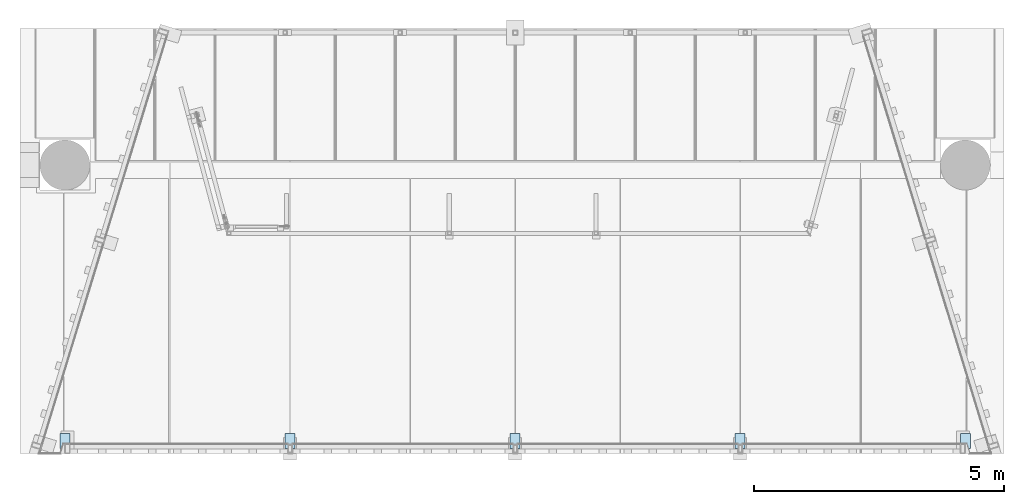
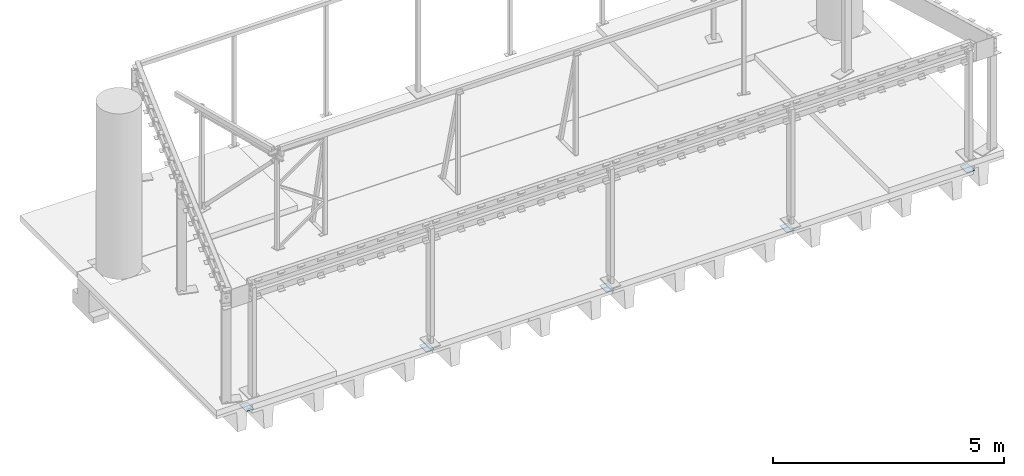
# One storey, part 19 of 19: 5 plates.
"""IFC2X3 building model written with IfcOpenShell, lengths in millimetres."""

from ifc_helpers import new_model, entity, si_unit, converted_unit, derived_unit, direction, frame, origin_with_axes, place, context, subcontext, project, spatial, faceted_brep, material, type_object, element, save


model = new_model("IFC2X3")

# Units and contexts
model_context = context("Model", 3, precision=0.01, world=frame((0.0, 4.29681676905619e-09, 0.0)), true_north=direction((4.01073788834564e-13, 1.0)))
plan_context = context("Plan", 3, precision=0.01, world=frame((0.0, 4.29681676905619e-09, 0.0)), true_north=direction((4.01073788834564e-13, 1.0)))
body_context = subcontext(model_context, "Body", "Model", "MODEL_VIEW")
ifc_project = project(units=[converted_unit("PLANEANGLEUNIT", "DEGREE", entity("IfcPositiveLengthMeasure", 0.0174532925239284), si_unit("PLANEANGLEUNIT", "RADIAN"), dimensions=[0, 0, 0, 0, 0, 0, 0]), si_unit("AREAUNIT", "SQUARE_METRE"), si_unit("LENGTHUNIT", "METRE", prefix="MILLI"), si_unit("MASSUNIT", "GRAM", prefix="KILO"), si_unit("POWERUNIT", "WATT"), si_unit("PRESSUREUNIT", "PASCAL", prefix="KILO"), si_unit("FORCEUNIT", "NEWTON", prefix="KILO"), si_unit("ELECTRICVOLTAGEUNIT", "VOLT"), si_unit("ELECTRICCURRENTUNIT", "AMPERE"), si_unit("THERMODYNAMICTEMPERATUREUNIT", "DEGREE_CELSIUS"), si_unit("TIMEUNIT", "SECOND"), si_unit("VOLUMEUNIT", "CUBIC_METRE"), derived_unit("LINEARVELOCITYUNIT", [(si_unit("LENGTHUNIT", "METRE"), 1), (si_unit("TIMEUNIT", "SECOND"), -1)]), derived_unit("VOLUMETRICFLOWRATEUNIT", [(si_unit("VOLUMEUNIT", "CUBIC_METRE"), 1), (si_unit("TIMEUNIT", "SECOND"), -1)]), derived_unit("THERMALTRANSMITTANCEUNIT", [(si_unit("POWERUNIT", "WATT"), 1), (si_unit("THERMODYNAMICTEMPERATUREUNIT", "KELVIN"), -1), (si_unit("AREAUNIT", "SQUARE_METRE"), -1)]), derived_unit("SOUNDPRESSUREUNIT", [(si_unit("PRESSUREUNIT", "PASCAL"), 1)])], contexts=[model_context, plan_context])

# Site, building, storey
site_placement = place(None, frame((0.0, -4.29681676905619e-09, 0.0), z_axis=(0.0, 0.0, 1.0), x_axis=(1.0, 0.0, 0.0)))
site = spatial("IfcSite", under=ifc_project, at=site_placement, Name="Gardermoen", CompositionType="ELEMENT")
building_placement = place(site_placement, frame((0.0, 4.29681676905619e-09, 0.0), z_axis=(0.0, 0.0, 1.0), x_axis=(1.0, 0.0, 0.0)))
building = spatial("IfcBuilding", under=site, at=building_placement, Name="TI", CompositionType="ELEMENT")
storey_placement = place(building_placement, origin_with_axes())
storey = spatial("IfcBuildingStorey", under=building, at=storey_placement, Name="F", CompositionType="ELEMENT", Elevation=0.0)

# Plates
ifc_material = material(Name="STEEL/S355")
plate_type = type_object("IfcPlateType", Name="PL12*200", PredefinedType="NOTDEFINED")
for number, where, z_axis, x_axis in (
    (1, (600899.99893067, 570130.00625733, 210459.0), (1.0, 0.0, 0.0), (0.0, -1.0, 0.0)),
    (2, (596399.99893067, 570130.00625733, 210459.0), (1.0, 0.0, 0.0), (0.0, -1.0, 0.0)),
    (3, (591899.99893067, 570130.00625733, 210459.0), (1.0, 0.0, 0.0), (0.0, -1.0, 0.0)),
    (4, (587399.99893067, 570130.006257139, 210459.0), (1.0, 0.0, 0.0), (0.0, -1.0, 0.0)),
    (5, (582899.99893067, 570130.006257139, 210459.0), (1.0, 0.0, 0.0), (0.0, -1.0, 0.0)),
):
    element("IfcPlate", number, at=place(storey_placement, frame(where, z_axis=z_axis, x_axis=x_axis)), inside=storey, type_object=plate_type, material=ifc_material, Name="STÅLBJELKE", ObjectType="PL12*200", context=body_context, shape_type="Brep", body=[
        faceted_brep([(0.0, -6.0, 0.0), (0.00684630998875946, -6.0, 199.999999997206), (0.00684630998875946, 6.0, 199.999999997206), (0.0, 6.0, 0.0), (299.552764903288, -6.0, 200.004394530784), (299.552764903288, 6.0, 200.004394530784), (300.000000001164, -6.0, 2.27009877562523e-09), (300.000000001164, 6.0, 2.27009877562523e-09)], [[[0, 1, 2, 3]], [[1, 4, 5, 2]], [[4, 6, 7, 5]], [[6, 0, 3, 7]], [[5, 7, 3, 2]], [[6, 4, 1, 0]]]),
    ])

save(model, "model.ifc")
